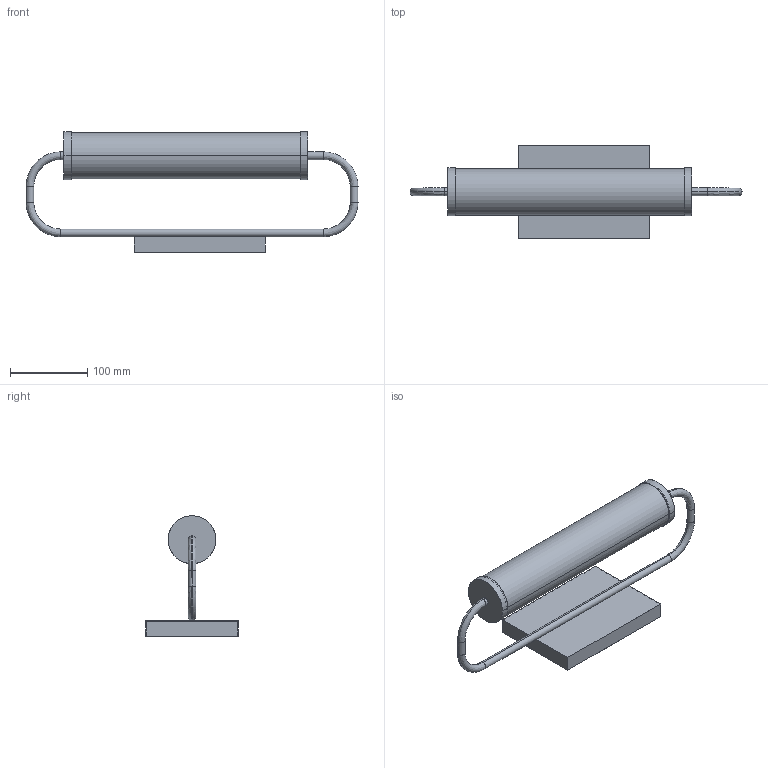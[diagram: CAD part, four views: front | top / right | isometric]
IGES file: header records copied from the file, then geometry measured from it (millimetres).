
Start section: SolidWorks IGES file using analytic representation for surfaces
Global section: file name: C:\Users\adrian\Desktop\MODELADOS USA\ISON\ISON_AU1298.IGS; native system: SolidWorks 2023; preprocessor: SolidWorks 2023; author: adrian; date: 260608.171459; units: inch
Bounding box: 430 x 119.89 x 156 mm (x, y, z)
Surface area: 209191.7 mm2 (no closed solid volume)
Topology: 0 solids, 0 shells, 51 faces, 1000 edges, 1000 vertices
Faces by surface type: bspline 29, revolution 22
